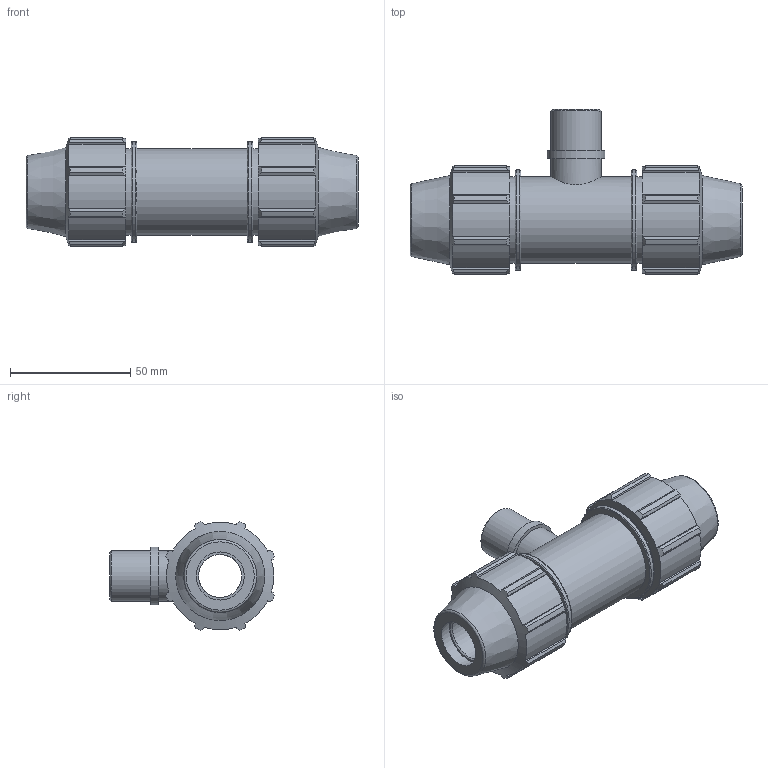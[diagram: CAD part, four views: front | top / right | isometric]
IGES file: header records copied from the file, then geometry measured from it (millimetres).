
Global section: file name: 078400020005_188400020005_0784060200050A.ipt; native system: Autodesk Inventor 2015; preprocessor: unknown; author: Кирилл,,11,0; organization: 20170224.180708; date: 20170606.172413; units: millimetre
Bounding box: 138 x 68.58 x 45.16 mm (x, y, z)
Volume: 127990.6 mm3; surface area: 34120.9 mm2
Topology: 1 solids, 1 shells, 154 faces, 433 edges, 293 vertices
Faces by surface type: plane 79, cylinder 40, cone 21, revolution 14
Full cylindrical faces by diameter (mm): 20.955 x2, 24.098 x1, 36 x3, 41.76 x2
